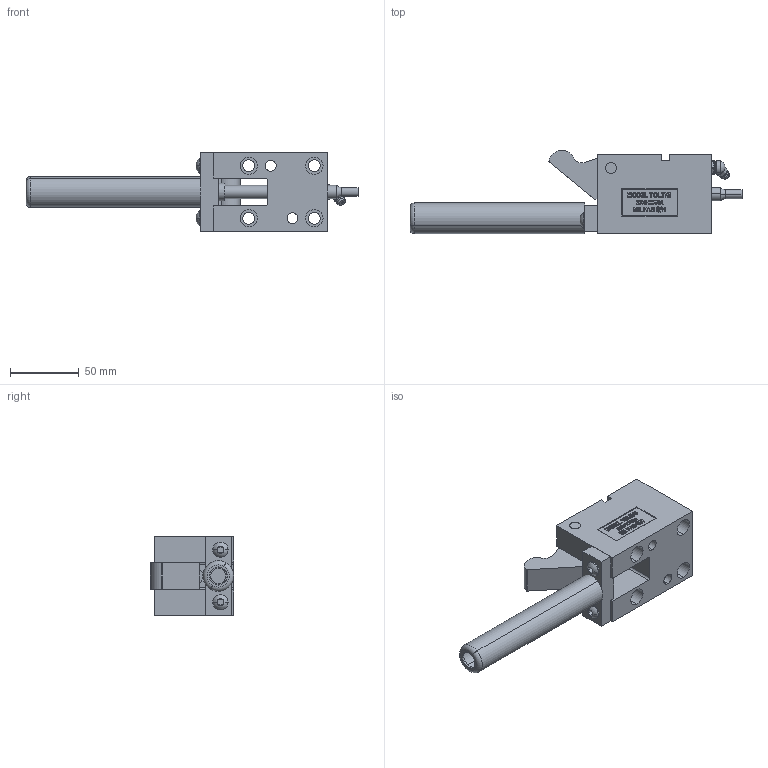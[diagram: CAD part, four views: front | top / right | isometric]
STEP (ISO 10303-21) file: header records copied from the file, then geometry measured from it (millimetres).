
FILE_DESCRIPTION (( 'STEP AP214' ), '1' );
FILE_NAME ('TOL37545-O.STEP', '2014-01-05T22:39:51', ( 'user' ), ( '' ), 'SwSTEP 2.0', 'SolidWorks 2009', '' );
FILE_SCHEMA (( 'AUTOMOTIVE_DESIGN' ));
Length unit declared in the file: inch
Products named in the file (10): 1-4 SCREW; OL375-CAGE; GREASE ZERK; 375 PIVOT PIN; 375-O-STRAP; TOL375-BODY; OL375-PUNCH; 375-OFFSET TRIGGER; TOL37545-O; O-375-POINT
Assembly tree (10 placements, depth 2):
  TOL37545-O
    O-375-POINT
    1-4 SCREW  x2
    OL375-PUNCH
    OL375-CAGE
    GREASE ZERK
    375-O-STRAP
    TOL375-BODY
    375-OFFSET TRIGGER
    375 PIVOT PIN
Bounding box: 241.3 x 60.43 x 57.15 mm (x, y, z)
Volume: 241362.6 mm3; surface area: 73989.6 mm2
Topology: 10 solids, 10 shells, 588 faces, 1520 edges, 1000 vertices
Faces by surface type: plane 346, bspline 96, cylinder 94, cone 26, torus 22, sphere 4
Entity records: 23160 total; most frequent: CARTESIAN_POINT 9416, ORIENTED_EDGE 2952, DIRECTION 2396, EDGE_CURVE 1476, VERTEX_POINT 974, VECTOR 974, LINE 974, AXIS2_PLACEMENT_3D 711
